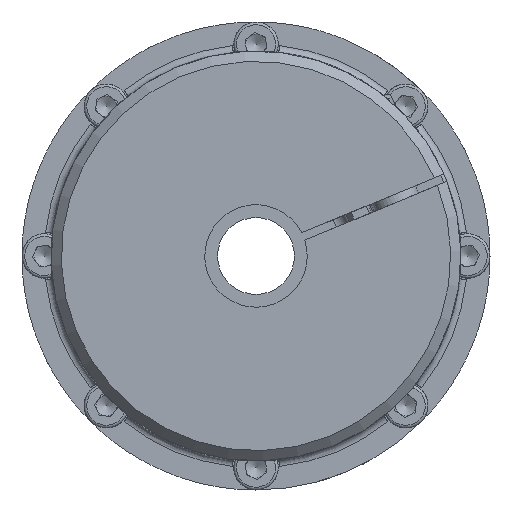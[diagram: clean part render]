
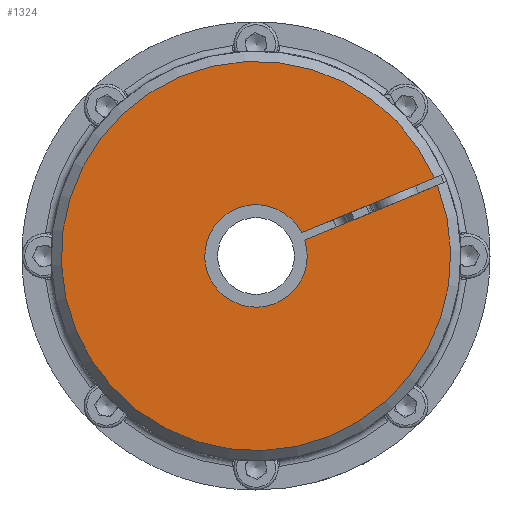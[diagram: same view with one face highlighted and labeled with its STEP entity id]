
A CAD part, left-side view. The second image highlights one B-rep face of the part: STEP entity #1324.
In plain terms, the highlighted planar face has unit normal (-1, 0, 0).
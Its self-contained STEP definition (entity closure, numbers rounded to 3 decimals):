
#1324 = ADVANCED_FACE( '', ( #2953 ), #2954, .T. );
#2953 = FACE_OUTER_BOUND( '', #4842, .T. );
#2954 = PLANE( '', #4843 );
#4842 = EDGE_LOOP( '', ( #8710, #8711, #8712, #8713 ) );
#4843 = AXIS2_PLACEMENT_3D( '', #8714, #8715, #8716 );
#8710 = ORIENTED_EDGE( '', *, *, #11838, .T. );
#8711 = ORIENTED_EDGE( '', *, *, #11684, .F. );
#8712 = ORIENTED_EDGE( '', *, *, #11814, .T. );
#8713 = ORIENTED_EDGE( '', *, *, #11876, .T. );
#8714 = CARTESIAN_POINT( '', ( -92.5, 4.592, 11.087 ) );
#8715 = DIRECTION( '', ( -1., 0., 0. ) );
#8716 = DIRECTION( '', ( 0., 0., 1. ) );
#11684 = EDGE_CURVE( '', #14353, #14354, #14355, .T. );
#11814 = EDGE_CURVE( '', #14353, #14531, #14533, .T. );
#11838 = EDGE_CURVE( '', #14560, #14354, #14561, .T. );
#11876 = EDGE_CURVE( '', #14531, #14560, #14608, .T. );
#14353 = VERTEX_POINT( '', #20005 );
#14354 = VERTEX_POINT( '', #20006 );
#14355 = CIRCLE( '', #20007, 15. );
#14531 = VERTEX_POINT( '', #20429 );
#14533 = LINE( '', #20432, #20433 );
#14560 = VERTEX_POINT( '', #20477 );
#14561 = LINE( '', #20478, #20479 );
#14608 = CIRCLE( '', #20544, 57. );
#20005 = CARTESIAN_POINT( '', ( -92.5, -13.374, 6.793 ) );
#20006 = CARTESIAN_POINT( '', ( -92.5, -14.273, 4.613 ) );
#20007 = AXIS2_PLACEMENT_3D( '', #22989, #22990, #22991 );
#20429 = CARTESIAN_POINT( '', ( -92.5, -52.207, 22.878 ) );
#20432 = CARTESIAN_POINT( '', ( -92.5, -10.312, 5.525 ) );
#20433 = VECTOR( '', #23125, 1000. );
#20477 = CARTESIAN_POINT( '', ( -92.5, -53.109, 20.699 ) );
#20478 = CARTESIAN_POINT( '', ( -92.5, -57.409, 22.481 ) );
#20479 = VECTOR( '', #23159, 1000. );
#20544 = AXIS2_PLACEMENT_3D( '', #23206, #23207, #23208 );
#22989 = CARTESIAN_POINT( '', ( -92.5, 0., 0. ) );
#22990 = DIRECTION( '', ( -1., 0., 0. ) );
#22991 = DIRECTION( '', ( 0., -0.924, 0.383 ) );
#23125 = DIRECTION( '', ( 0., -0.924, 0.383 ) );
#23159 = DIRECTION( '', ( 0., 0.924, -0.383 ) );
#23206 = CARTESIAN_POINT( '', ( -92.5, 0., 0. ) );
#23207 = DIRECTION( '', ( -1., 0., 0. ) );
#23208 = DIRECTION( '', ( 0., 0.383, 0.924 ) );
